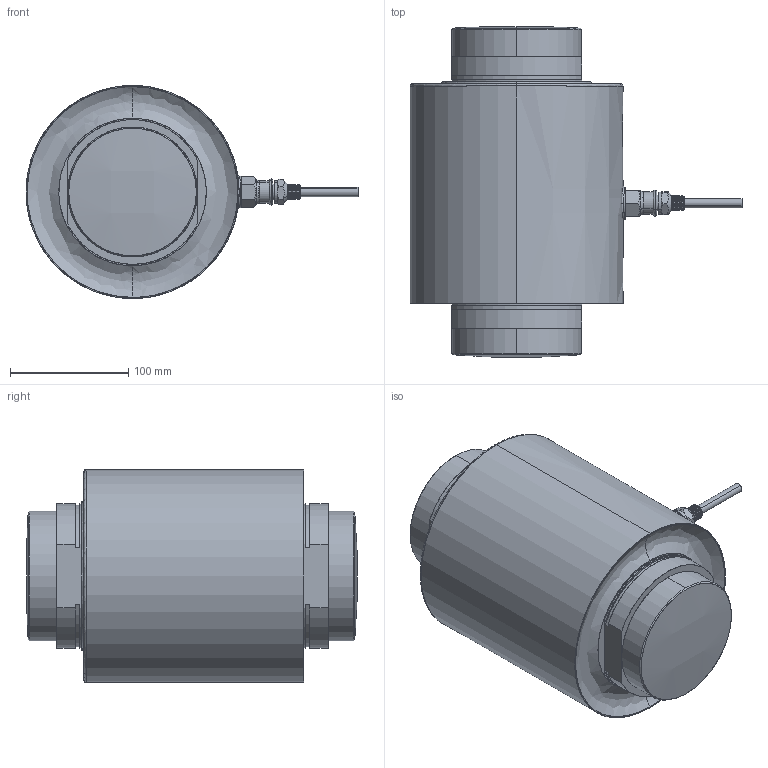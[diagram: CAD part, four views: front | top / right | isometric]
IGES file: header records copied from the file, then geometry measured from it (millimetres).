
Start section: SolidWorks IGES file using analytic representation for surfaces
Global section: file name: C:\0_Work\SolidWorks\0_Load Points\LPRC03 Series\660K\Load_Sensor_HIRCH03_660KLB.IGS; native system: SolidWorks 2020; preprocessor: SolidWorks 2020; author: vach01; date: 220601.145010; units: millimetre
Bounding box: 281 x 279.71 x 180.36 mm (x, y, z)
Surface area: 200616.7 mm2 (no closed solid volume)
Topology: 0 solids, 0 shells, 188 faces, 2996 edges, 2992 vertices
Faces by surface type: revolution 126, bspline 62
